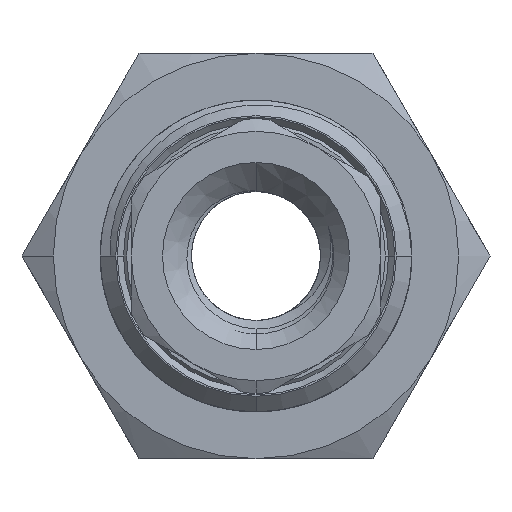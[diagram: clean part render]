
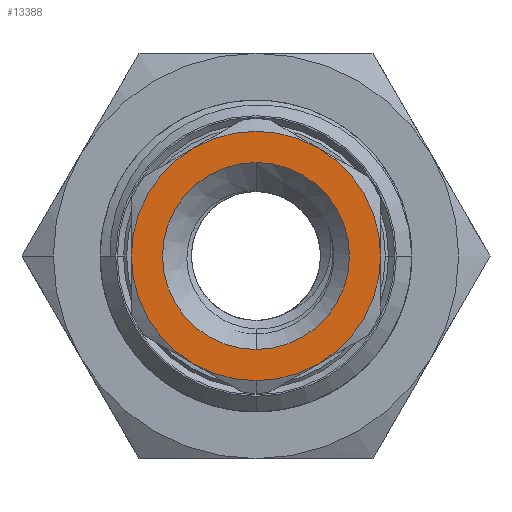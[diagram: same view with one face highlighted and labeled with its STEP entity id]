
A CAD part, front view. The second image highlights one B-rep face of the part: STEP entity #13388.
In plain terms, the highlighted planar face has unit normal (0, -1, 0).
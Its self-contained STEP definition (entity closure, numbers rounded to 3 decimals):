
#22 = ORIENTED_EDGE ( 'NONE', *, *, #10707, .T. ) ;
#104 = VERTEX_POINT ( 'NONE', #8633 ) ;
#149 = ORIENTED_EDGE ( 'NONE', *, *, #16123, .T. ) ;
#213 = AXIS2_PLACEMENT_3D ( 'NONE', #10661, #15708, #9331 ) ;
#356 = ORIENTED_EDGE ( 'NONE', *, *, #10910, .T. ) ;
#388 = CIRCLE ( 'NONE', #1461, 4. ) ;
#442 = FACE_OUTER_BOUND ( 'NONE', #8832, .T. ) ;
#471 = CIRCLE ( 'NONE', #731, 4. ) ;
#494 = VERTEX_POINT ( 'NONE', #12045 ) ;
#606 = CARTESIAN_POINT ( 'NONE',  ( 0., -27., 0. ) ) ;
#657 = CARTESIAN_POINT ( 'NONE',  ( 0., -27., 0. ) ) ;
#709 = AXIS2_PLACEMENT_3D ( 'NONE', #3537, #2183, #8697 ) ;
#731 = AXIS2_PLACEMENT_3D ( 'NONE', #14954, #3335, #3502 ) ;
#844 = ORIENTED_EDGE ( 'NONE', *, *, #12834, .T. ) ;
#1461 = AXIS2_PLACEMENT_3D ( 'NONE', #14416, #15682, #2703 ) ;
#1781 = CIRCLE ( 'NONE', #9624, 3. ) ;
#2183 = DIRECTION ( 'NONE',  ( 0., -1., 0. ) ) ;
#2258 = EDGE_CURVE ( 'NONE', #14449, #4212, #388, .T. ) ;
#2637 = AXIS2_PLACEMENT_3D ( 'NONE', #13481, #15693, #12134 ) ;
#2703 = DIRECTION ( 'NONE',  ( -0.5, 0., -0.866 ) ) ;
#2942 = CARTESIAN_POINT ( 'NONE',  ( 2., -27., -3.464 ) ) ;
#2956 = AXIS2_PLACEMENT_3D ( 'NONE', #13797, #12447, #13718 ) ;
#3064 = DIRECTION ( 'NONE',  ( 0., 1., 0. ) ) ;
#3335 = DIRECTION ( 'NONE',  ( 0., -1., 0. ) ) ;
#3475 = ORIENTED_EDGE ( 'NONE', *, *, #7304, .F. ) ;
#3502 = DIRECTION ( 'NONE',  ( -1., 0., 0. ) ) ;
#3537 = CARTESIAN_POINT ( 'NONE',  ( 0., -27., 0. ) ) ;
#4061 = CARTESIAN_POINT ( 'NONE',  ( 0., -27., 3. ) ) ;
#4192 = ORIENTED_EDGE ( 'NONE', *, *, #8042, .T. ) ;
#4212 = VERTEX_POINT ( 'NONE', #2942 ) ;
#4926 = ORIENTED_EDGE ( 'NONE', *, *, #11763, .F. ) ;
#5063 = CARTESIAN_POINT ( 'NONE',  ( 0., -27., -4. ) ) ;
#5609 = PLANE ( 'NONE',  #7912 ) ;
#5665 = VERTEX_POINT ( 'NONE', #8571 ) ;
#5842 = DIRECTION ( 'NONE',  ( 0., -1., 0. ) ) ;
#6855 = DIRECTION ( 'NONE',  ( 0.5, 0., -0.866 ) ) ;
#7304 = EDGE_CURVE ( 'NONE', #5665, #12087, #1781, .T. ) ;
#7822 = CARTESIAN_POINT ( 'NONE',  ( 0., -27., 0. ) ) ;
#7912 = AXIS2_PLACEMENT_3D ( 'NONE', #12072, #3064, #9494 ) ;
#8042 = EDGE_CURVE ( 'NONE', #12657, #104, #15789, .T. ) ;
#8084 = AXIS2_PLACEMENT_3D ( 'NONE', #606, #5842, #8227 ) ;
#8227 = DIRECTION ( 'NONE',  ( -0.5, 0., -0.866 ) ) ;
#8571 = CARTESIAN_POINT ( 'NONE',  ( 0., -27., -3. ) ) ;
#8633 = CARTESIAN_POINT ( 'NONE',  ( 2., -27., 3.464 ) ) ;
#8697 = DIRECTION ( 'NONE',  ( 1., 0., 0. ) ) ;
#8832 = EDGE_LOOP ( 'NONE', ( #356, #22, #15673, #10138, #844, #4192, #149 ) ) ;
#8846 = CIRCLE ( 'NONE', #213, 4. ) ;
#9331 = DIRECTION ( 'NONE',  ( -0.5, 0., 0.866 ) ) ;
#9381 = DIRECTION ( 'NONE',  ( 0., -1., 0. ) ) ;
#9494 = DIRECTION ( 'NONE',  ( 1., 0., 0. ) ) ;
#9624 = AXIS2_PLACEMENT_3D ( 'NONE', #7822, #12751, #13938 ) ;
#9952 = CIRCLE ( 'NONE', #8084, 4. ) ;
#10138 = ORIENTED_EDGE ( 'NONE', *, *, #2258, .T. ) ;
#10661 = CARTESIAN_POINT ( 'NONE',  ( 0., -27., 0. ) ) ;
#10685 = CARTESIAN_POINT ( 'NONE',  ( -2., -27., -3.464 ) ) ;
#10707 = EDGE_CURVE ( 'NONE', #12992, #12155, #471, .T. ) ;
#10910 = EDGE_CURVE ( 'NONE', #494, #12992, #8846, .T. ) ;
#11200 = EDGE_LOOP ( 'NONE', ( #3475, #4926 ) ) ;
#11763 = EDGE_CURVE ( 'NONE', #12087, #5665, #16349, .T. ) ;
#12045 = CARTESIAN_POINT ( 'NONE',  ( -2., -27., 3.464 ) ) ;
#12072 = CARTESIAN_POINT ( 'NONE',  ( 0., -27., 0. ) ) ;
#12087 = VERTEX_POINT ( 'NONE', #4061 ) ;
#12134 = DIRECTION ( 'NONE',  ( 0., 0., 1. ) ) ;
#12155 = VERTEX_POINT ( 'NONE', #10685 ) ;
#12447 = DIRECTION ( 'NONE',  ( 0., -1., 0. ) ) ;
#12657 = VERTEX_POINT ( 'NONE', #12892 ) ;
#12751 = DIRECTION ( 'NONE',  ( 0., -1., 0. ) ) ;
#12834 = EDGE_CURVE ( 'NONE', #4212, #12657, #14222, .T. ) ;
#12892 = CARTESIAN_POINT ( 'NONE',  ( 4., -27., 0. ) ) ;
#12992 = VERTEX_POINT ( 'NONE', #13874 ) ;
#13247 = FACE_BOUND ( 'NONE', #11200, .T. ) ;
#13388 = ADVANCED_FACE ( 'NONE', ( #13247, #442 ), #5609, .F. ) ;
#13481 = CARTESIAN_POINT ( 'NONE',  ( 0., -27., 0. ) ) ;
#13676 = AXIS2_PLACEMENT_3D ( 'NONE', #657, #9381, #6855 ) ;
#13718 = DIRECTION ( 'NONE',  ( 0.5, 0., 0.866 ) ) ;
#13797 = CARTESIAN_POINT ( 'NONE',  ( 0., -27., 0. ) ) ;
#13874 = CARTESIAN_POINT ( 'NONE',  ( -4., -27., 0. ) ) ;
#13938 = DIRECTION ( 'NONE',  ( 0., 0., -1. ) ) ;
#14222 = CIRCLE ( 'NONE', #13676, 4. ) ;
#14416 = CARTESIAN_POINT ( 'NONE',  ( 0., -27., 0. ) ) ;
#14449 = VERTEX_POINT ( 'NONE', #5063 ) ;
#14954 = CARTESIAN_POINT ( 'NONE',  ( 0., -27., 0. ) ) ;
#15673 = ORIENTED_EDGE ( 'NONE', *, *, #15721, .T. ) ;
#15682 = DIRECTION ( 'NONE',  ( 0., -1., 0. ) ) ;
#15693 = DIRECTION ( 'NONE',  ( 0., -1., 0. ) ) ;
#15708 = DIRECTION ( 'NONE',  ( 0., -1., 0. ) ) ;
#15721 = EDGE_CURVE ( 'NONE', #12155, #14449, #9952, .T. ) ;
#15789 = CIRCLE ( 'NONE', #709, 4. ) ;
#15859 = CIRCLE ( 'NONE', #2956, 4. ) ;
#16123 = EDGE_CURVE ( 'NONE', #104, #494, #15859, .T. ) ;
#16349 = CIRCLE ( 'NONE', #2637, 3. ) ;
